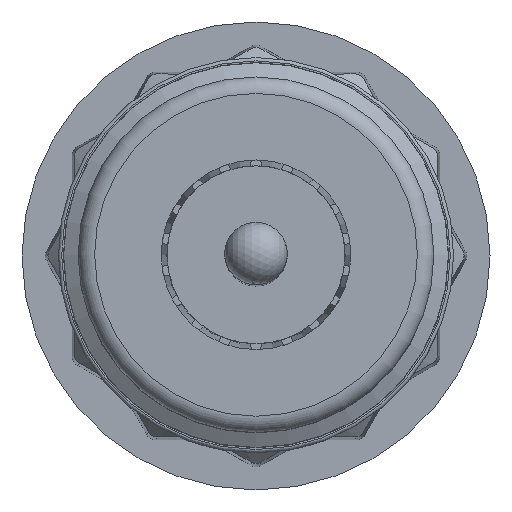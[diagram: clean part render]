
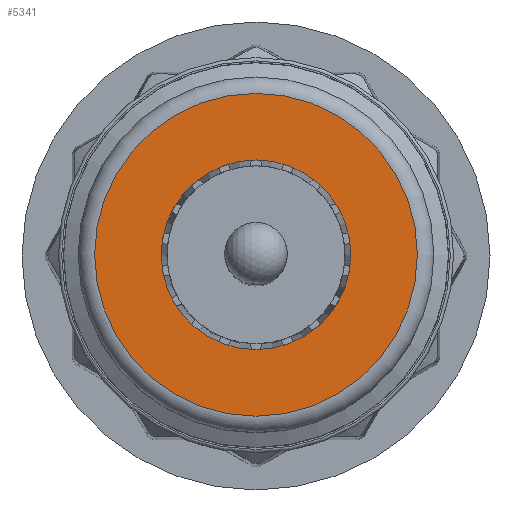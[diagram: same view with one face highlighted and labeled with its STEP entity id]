
A CAD part, top view. The second image highlights one B-rep face of the part: STEP entity #5341.
In plain terms, the highlighted planar face has unit normal (0, 0, 1).
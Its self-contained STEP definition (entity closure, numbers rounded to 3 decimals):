
#172 = DIRECTION ( 'NONE',  ( 0., 0., 1. ) ) ;
#704 = EDGE_LOOP ( 'NONE', ( #5956 ) ) ;
#872 = EDGE_CURVE ( 'NONE', #2844, #2844, #3928, .T. ) ;
#1065 = CARTESIAN_POINT ( 'NONE',  ( 2.879, 0., 24. ) ) ;
#1447 = CARTESIAN_POINT ( 'NONE',  ( -4.9, 0., 24. ) ) ;
#1869 = DIRECTION ( 'NONE',  ( 1., 0., 0. ) ) ;
#1888 = AXIS2_PLACEMENT_3D ( 'NONE', #2945, #3912, #5384 ) ;
#1923 = CARTESIAN_POINT ( 'NONE',  ( 0., 0., 24. ) ) ;
#2352 = FACE_BOUND ( 'NONE', #704, .T. ) ;
#2369 = VERTEX_POINT ( 'NONE', #1065 ) ;
#2844 = VERTEX_POINT ( 'NONE', #1447 ) ;
#2945 = CARTESIAN_POINT ( 'NONE',  ( 0., 5.4, 24. ) ) ;
#3757 = ORIENTED_EDGE ( 'NONE', *, *, #872, .T. ) ;
#3787 = EDGE_CURVE ( 'NONE', #2369, #2369, #5606, .T. ) ;
#3805 = AXIS2_PLACEMENT_3D ( 'NONE', #4563, #172, #5040 ) ;
#3912 = DIRECTION ( 'NONE',  ( 0., 0., -1. ) ) ;
#3928 = CIRCLE ( 'NONE', #3805, 4.9 ) ;
#4563 = CARTESIAN_POINT ( 'NONE',  ( 0., 0., 24. ) ) ;
#4706 = FACE_OUTER_BOUND ( 'NONE', #5812, .T. ) ;
#4827 = AXIS2_PLACEMENT_3D ( 'NONE', #1923, #6263, #1869 ) ;
#4886 = PLANE ( 'NONE',  #1888 ) ;
#5040 = DIRECTION ( 'NONE',  ( -1., 0., 0. ) ) ;
#5341 = ADVANCED_FACE ( 'NONE', ( #4706, #2352 ), #4886, .F. ) ;
#5384 = DIRECTION ( 'NONE',  ( -1., 0., 0. ) ) ;
#5606 = CIRCLE ( 'NONE', #4827, 2.879 ) ;
#5812 = EDGE_LOOP ( 'NONE', ( #3757 ) ) ;
#5956 = ORIENTED_EDGE ( 'NONE', *, *, #3787, .F. ) ;
#6263 = DIRECTION ( 'NONE',  ( 0., 0., 1. ) ) ;
